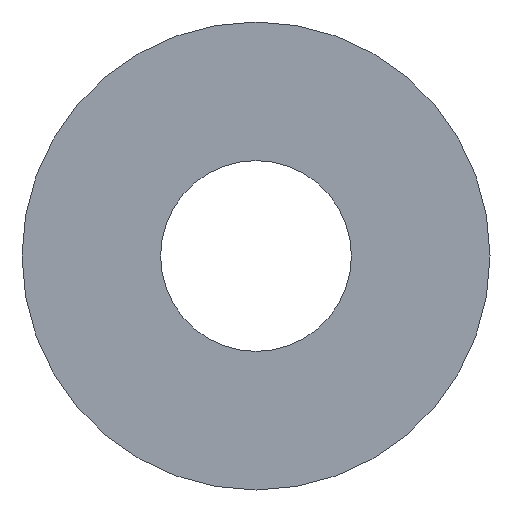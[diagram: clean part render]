
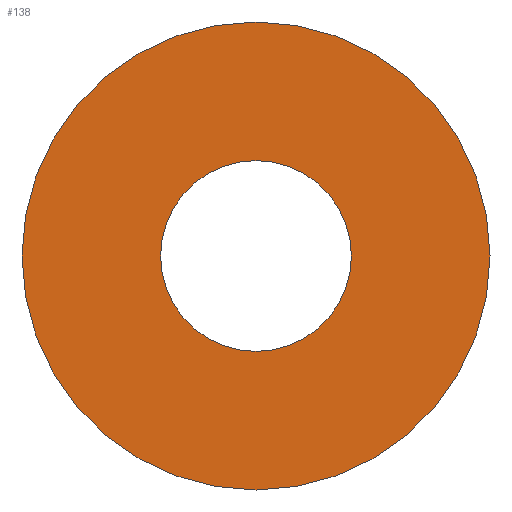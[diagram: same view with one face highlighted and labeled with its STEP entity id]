
A CAD part, front view. The second image highlights one B-rep face of the part: STEP entity #138.
In plain terms, the highlighted planar face has unit normal (0, -1, 0).
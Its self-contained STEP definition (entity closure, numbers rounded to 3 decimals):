
#2 = CARTESIAN_POINT ( 'NONE',  ( 0., 0., 193.8 ) ) ;
#3 = VERTEX_POINT ( 'NONE', #7 ) ;
#4 = FACE_BOUND ( 'NONE', #47, .T. ) ;
#7 = CARTESIAN_POINT ( 'NONE',  ( 0., 0., 79. ) ) ;
#12 = ORIENTED_EDGE ( 'NONE', *, *, #116, .T. ) ;
#15 = CIRCLE ( 'NONE', #40, 79. ) ;
#24 = CARTESIAN_POINT ( 'NONE',  ( 0., 0., 0. ) ) ;
#25 = CARTESIAN_POINT ( 'NONE',  ( 0., 0., 0. ) ) ;
#29 = VERTEX_POINT ( 'NONE', #234 ) ;
#34 = VERTEX_POINT ( 'NONE', #218 ) ;
#40 = AXIS2_PLACEMENT_3D ( 'NONE', #104, #198, #63 ) ;
#47 = EDGE_LOOP ( 'NONE', ( #12, #71 ) ) ;
#56 = DIRECTION ( 'NONE',  ( 0., 0., 1. ) ) ;
#58 = CIRCLE ( 'NONE', #147, 193.8 ) ;
#63 = DIRECTION ( 'NONE',  ( 0., 0., 1. ) ) ;
#65 = DIRECTION ( 'NONE',  ( 0., 0., 1. ) ) ;
#71 = ORIENTED_EDGE ( 'NONE', *, *, #173, .T. ) ;
#80 = AXIS2_PLACEMENT_3D ( 'NONE', #24, #124, #163 ) ;
#83 = DIRECTION ( 'NONE',  ( 0., 1., 0. ) ) ;
#93 = ORIENTED_EDGE ( 'NONE', *, *, #231, .F. ) ;
#102 = FACE_OUTER_BOUND ( 'NONE', #230, .T. ) ;
#104 = CARTESIAN_POINT ( 'NONE',  ( 0., 0., 0. ) ) ;
#109 = AXIS2_PLACEMENT_3D ( 'NONE', #25, #249, #184 ) ;
#116 = EDGE_CURVE ( 'NONE', #29, #3, #15, .T. ) ;
#124 = DIRECTION ( 'NONE',  ( 0., 1., 0. ) ) ;
#138 = ADVANCED_FACE ( 'NONE', ( #102, #4 ), #181, .F. ) ;
#147 = AXIS2_PLACEMENT_3D ( 'NONE', #149, #223, #56 ) ;
#149 = CARTESIAN_POINT ( 'NONE',  ( 0., 0., 0. ) ) ;
#152 = AXIS2_PLACEMENT_3D ( 'NONE', #239, #83, #65 ) ;
#157 = ORIENTED_EDGE ( 'NONE', *, *, #221, .F. ) ;
#163 = DIRECTION ( 'NONE',  ( 0., 0., 1. ) ) ;
#168 = VERTEX_POINT ( 'NONE', #2 ) ;
#169 = CIRCLE ( 'NONE', #80, 193.8 ) ;
#173 = EDGE_CURVE ( 'NONE', #3, #29, #214, .T. ) ;
#181 = PLANE ( 'NONE',  #109 ) ;
#184 = DIRECTION ( 'NONE',  ( 0., 0., 1. ) ) ;
#198 = DIRECTION ( 'NONE',  ( 0., 1., 0. ) ) ;
#214 = CIRCLE ( 'NONE', #152, 79. ) ;
#218 = CARTESIAN_POINT ( 'NONE',  ( 0., 0., -193.8 ) ) ;
#221 = EDGE_CURVE ( 'NONE', #34, #168, #169, .T. ) ;
#223 = DIRECTION ( 'NONE',  ( 0., 1., 0. ) ) ;
#230 = EDGE_LOOP ( 'NONE', ( #157, #93 ) ) ;
#231 = EDGE_CURVE ( 'NONE', #168, #34, #58, .T. ) ;
#234 = CARTESIAN_POINT ( 'NONE',  ( 0., 0., -79. ) ) ;
#239 = CARTESIAN_POINT ( 'NONE',  ( 0., 0., 0. ) ) ;
#249 = DIRECTION ( 'NONE',  ( 0., 1., 0. ) ) ;
